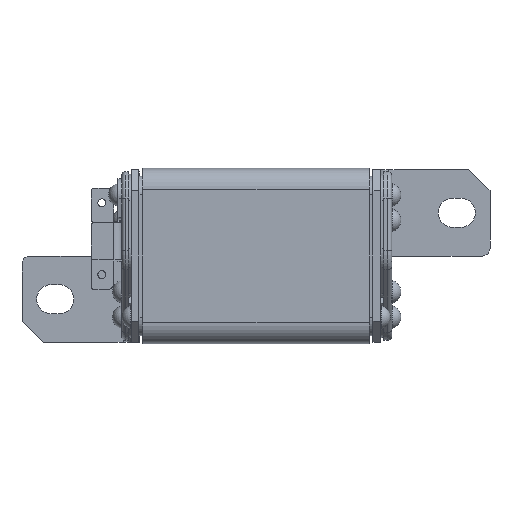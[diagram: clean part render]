
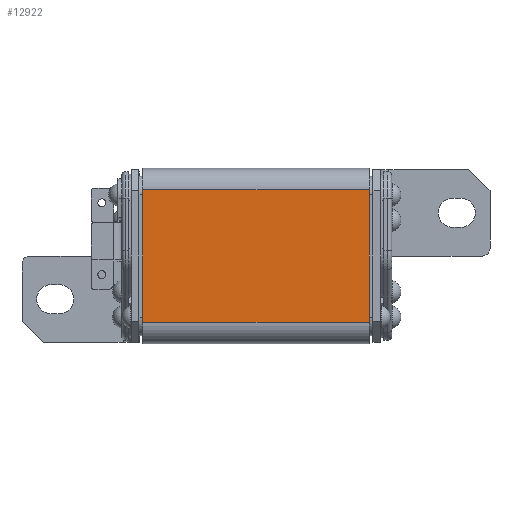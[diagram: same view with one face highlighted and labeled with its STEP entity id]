
A CAD part, left-side view. The second image highlights one B-rep face of the part: STEP entity #12922.
In plain terms, the highlighted planar face has unit normal (-1, 0, 0).
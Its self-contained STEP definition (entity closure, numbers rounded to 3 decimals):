
#3559 = ORIENTED_EDGE ( 'NONE', *, *, #21767, .F. ) ;
#4423 = VERTEX_POINT ( 'NONE', #14079 ) ;
#4915 = FACE_OUTER_BOUND ( 'NONE', #25764, .T. ) ;
#4943 = PLANE ( 'NONE',  #21123 ) ;
#8230 = VECTOR ( 'NONE', #11731, 1000. ) ;
#9878 = ORIENTED_EDGE ( 'NONE', *, *, #24560, .T. ) ;
#9893 = DIRECTION ( 'NONE',  ( 1., 0., 0. ) ) ;
#10167 = CARTESIAN_POINT ( 'NONE',  ( -33., -42.5, -25. ) ) ;
#10355 = LINE ( 'NONE', #10167, #29161 ) ;
#10552 = ORIENTED_EDGE ( 'NONE', *, *, #14362, .T. ) ;
#10607 = DIRECTION ( 'NONE',  ( 0., 1., 0. ) ) ;
#11063 = DIRECTION ( 'NONE',  ( 0., 0., -1. ) ) ;
#11171 = LINE ( 'NONE', #17538, #20360 ) ;
#11325 = CARTESIAN_POINT ( 'NONE',  ( -33., 42.5, 25. ) ) ;
#11634 = CARTESIAN_POINT ( 'NONE',  ( -33., -42.5, 25. ) ) ;
#11731 = DIRECTION ( 'NONE',  ( 0., 1., 0. ) ) ;
#12922 = ADVANCED_FACE ( 'NONE', ( #4915 ), #4943, .F. ) ;
#13223 = LINE ( 'NONE', #25810, #20919 ) ;
#14079 = CARTESIAN_POINT ( 'NONE',  ( -33., 42.5, -25. ) ) ;
#14362 = EDGE_CURVE ( 'NONE', #24280, #27126, #15136, .T. ) ;
#14729 = CARTESIAN_POINT ( 'NONE',  ( -33., -42.5, -25. ) ) ;
#15136 = LINE ( 'NONE', #11634, #8230 ) ;
#16348 = CARTESIAN_POINT ( 'NONE',  ( -33., -42.5, -25. ) ) ;
#17538 = CARTESIAN_POINT ( 'NONE',  ( -33., -42.5, -25. ) ) ;
#20360 = VECTOR ( 'NONE', #27229, 1000. ) ;
#20484 = EDGE_CURVE ( 'NONE', #24280, #28613, #11171, .T. ) ;
#20919 = VECTOR ( 'NONE', #11063, 1000. ) ;
#21123 = AXIS2_PLACEMENT_3D ( 'NONE', #14729, #9893, #22364 ) ;
#21767 = EDGE_CURVE ( 'NONE', #28613, #4423, #10355, .T. ) ;
#22364 = DIRECTION ( 'NONE',  ( 0., 0., 1. ) ) ;
#24280 = VERTEX_POINT ( 'NONE', #29305 ) ;
#24560 = EDGE_CURVE ( 'NONE', #27126, #4423, #13223, .T. ) ;
#25764 = EDGE_LOOP ( 'NONE', ( #9878, #3559, #31216, #10552 ) ) ;
#25810 = CARTESIAN_POINT ( 'NONE',  ( -33., 42.5, -25. ) ) ;
#27126 = VERTEX_POINT ( 'NONE', #11325 ) ;
#27229 = DIRECTION ( 'NONE',  ( 0., 0., -1. ) ) ;
#28613 = VERTEX_POINT ( 'NONE', #16348 ) ;
#29161 = VECTOR ( 'NONE', #10607, 1000. ) ;
#29305 = CARTESIAN_POINT ( 'NONE',  ( -33., -42.5, 25. ) ) ;
#31216 = ORIENTED_EDGE ( 'NONE', *, *, #20484, .F. ) ;
